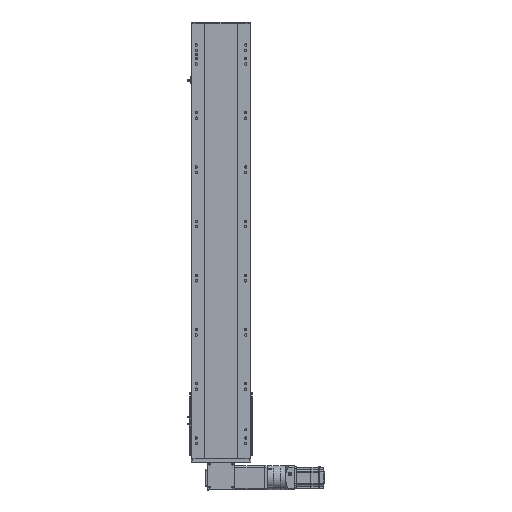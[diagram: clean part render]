
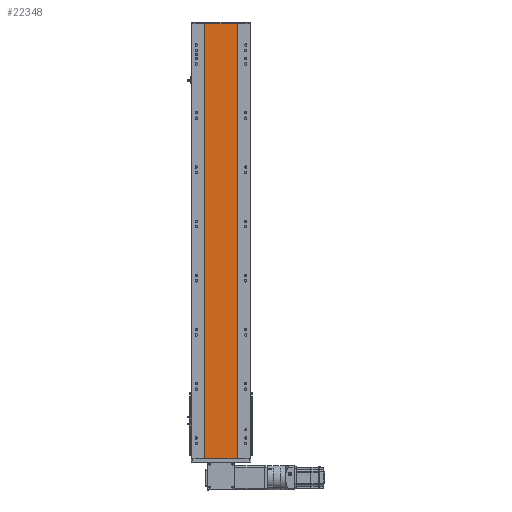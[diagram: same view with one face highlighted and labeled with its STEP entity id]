
A CAD part, front view. The second image highlights one B-rep face of the part: STEP entity #22348.
In plain terms, the highlighted planar face has unit normal (0, -1, 0).
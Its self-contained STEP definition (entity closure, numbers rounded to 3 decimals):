
#462 = DIRECTION ( 'NONE',  ( 1., 0., 0. ) ) ;
#1651 = VERTEX_POINT ( 'NONE', #16231 ) ;
#2260 = CARTESIAN_POINT ( 'NONE',  ( 432.408, 155.016, 1607. ) ) ;
#10444 = EDGE_LOOP ( 'NONE', ( #46348, #11837, #22287, #45356 ) ) ;
#11229 = CARTESIAN_POINT ( 'NONE',  ( 0., 155.016, 1607. ) ) ;
#11837 = ORIENTED_EDGE ( 'NONE', *, *, #71709, .F. ) ;
#11998 = DIRECTION ( 'NONE',  ( 0., 0., 1. ) ) ;
#13969 = CARTESIAN_POINT ( 'NONE',  ( 551.58, 155.016, 0. ) ) ;
#16231 = CARTESIAN_POINT ( 'NONE',  ( 432.408, 155.016, 1607. ) ) ;
#17112 = CARTESIAN_POINT ( 'NONE',  ( 432.408, 155.016, 0. ) ) ;
#19333 = VECTOR ( 'NONE', #38989, 1000. ) ;
#20942 = LINE ( 'NONE', #2260, #55331 ) ;
#22287 = ORIENTED_EDGE ( 'NONE', *, *, #26127, .F. ) ;
#22348 = ADVANCED_FACE ( 'NONE', ( #58005 ), #70909, .F. ) ;
#24243 = LINE ( 'NONE', #73002, #53289 ) ;
#26035 = CARTESIAN_POINT ( 'NONE',  ( 0., 155.016, 0. ) ) ;
#26127 = EDGE_CURVE ( 'NONE', #1651, #40200, #24243, .T. ) ;
#27568 = LINE ( 'NONE', #26035, #71227 ) ;
#31843 = DIRECTION ( 'NONE',  ( 0., 0., -1. ) ) ;
#31857 = DIRECTION ( 'NONE',  ( 1., 0., 0. ) ) ;
#34452 = AXIS2_PLACEMENT_3D ( 'NONE', #11229, #34571, #11998 ) ;
#34571 = DIRECTION ( 'NONE',  ( 0., 1., 0. ) ) ;
#38989 = DIRECTION ( 'NONE',  ( 0., 0., -1. ) ) ;
#40200 = VERTEX_POINT ( 'NONE', #61810 ) ;
#45356 = ORIENTED_EDGE ( 'NONE', *, *, #71747, .T. ) ;
#46348 = ORIENTED_EDGE ( 'NONE', *, *, #50407, .T. ) ;
#46400 = LINE ( 'NONE', #70238, #19333 ) ;
#50407 = EDGE_CURVE ( 'NONE', #55293, #72826, #27568, .T. ) ;
#53289 = VECTOR ( 'NONE', #462, 1000. ) ;
#55293 = VERTEX_POINT ( 'NONE', #17112 ) ;
#55331 = VECTOR ( 'NONE', #31843, 1000. ) ;
#58005 = FACE_OUTER_BOUND ( 'NONE', #10444, .T. ) ;
#61810 = CARTESIAN_POINT ( 'NONE',  ( 551.58, 155.016, 1607. ) ) ;
#70238 = CARTESIAN_POINT ( 'NONE',  ( 551.58, 155.016, 1607. ) ) ;
#70909 = PLANE ( 'NONE',  #34452 ) ;
#71227 = VECTOR ( 'NONE', #31857, 1000. ) ;
#71709 = EDGE_CURVE ( 'NONE', #40200, #72826, #46400, .T. ) ;
#71747 = EDGE_CURVE ( 'NONE', #1651, #55293, #20942, .T. ) ;
#72826 = VERTEX_POINT ( 'NONE', #13969 ) ;
#73002 = CARTESIAN_POINT ( 'NONE',  ( 0., 155.016, 1607. ) ) ;
